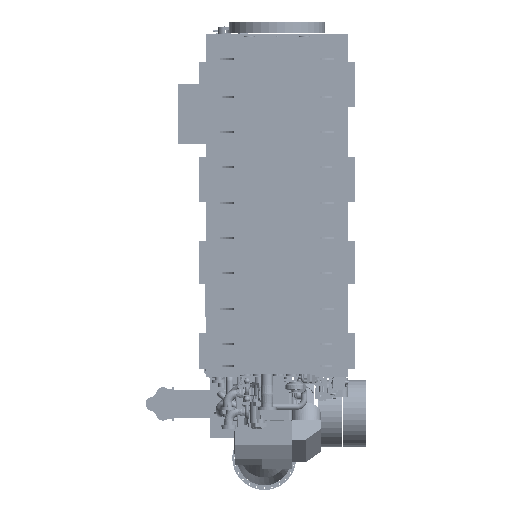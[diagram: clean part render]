
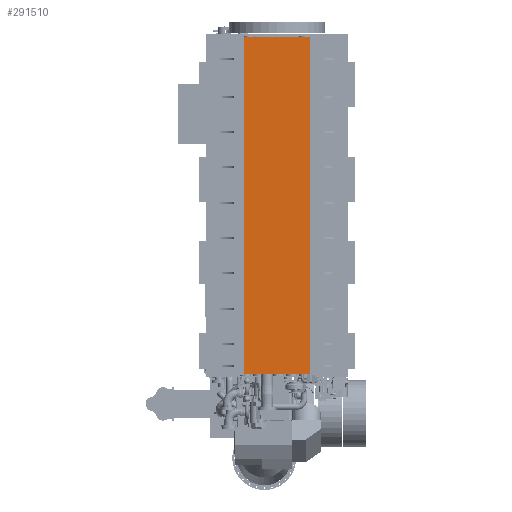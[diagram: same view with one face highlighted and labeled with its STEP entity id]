
A CAD part, front view. The second image highlights one B-rep face of the part: STEP entity #291510.
In plain terms, the highlighted planar face has unit normal (0, -1, 0).
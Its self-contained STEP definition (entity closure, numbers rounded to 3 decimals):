
#287918=DIRECTION('',(0.,0.,-1.));
#287919=VECTOR('',#287918,5050.);
#287920=CARTESIAN_POINT('',(490.,-1372.,622.));
#287921=LINE('',#287920,#287919);
#287922=DIRECTION('',(0.,0.,1.));
#287923=VECTOR('',#287922,5050.);
#287924=CARTESIAN_POINT('',(-490.,-1372.,-4428.));
#287925=LINE('',#287924,#287923);
#289010=DIRECTION('',(1.,0.,0.));
#289011=VECTOR('',#289010,980.);
#289012=CARTESIAN_POINT('',(-490.,-1372.,622.));
#289013=LINE('',#289012,#289011);
#289074=DIRECTION('',(1.,0.,0.));
#289075=VECTOR('',#289074,980.);
#289076=CARTESIAN_POINT('',(-490.,-1372.,-4428.));
#289077=LINE('',#289076,#289075);
#290624=CARTESIAN_POINT('',(-490.,-1372.,622.));
#290625=CARTESIAN_POINT('',(490.,-1372.,622.));
#290626=VERTEX_POINT('',#290624);
#290627=VERTEX_POINT('',#290625);
#290664=CARTESIAN_POINT('',(-490.,-1372.,-4428.));
#290665=CARTESIAN_POINT('',(490.,-1372.,-4428.));
#290666=VERTEX_POINT('',#290664);
#290667=VERTEX_POINT('',#290665);
#291495=CARTESIAN_POINT('',(-490.,-1372.,607.));
#291496=DIRECTION('',(0.,-1.,0.));
#291497=DIRECTION('',(1.,0.,0.));
#291498=AXIS2_PLACEMENT_3D('',#291495,#291496,#291497);
#291499=PLANE('',#291498);
#291501=ORIENTED_EDGE('',*,*,#291500,.T.);
#291503=ORIENTED_EDGE('',*,*,#291502,.F.);
#291505=ORIENTED_EDGE('',*,*,#291504,.T.);
#291507=ORIENTED_EDGE('',*,*,#291506,.T.);
#291508=EDGE_LOOP('',(#291501,#291503,#291505,#291507));
#291509=FACE_OUTER_BOUND('',#291508,.F.);
#291510=ADVANCED_FACE('',(#291509),#291499,.T.);
#291500=EDGE_CURVE('',#290627,#290667,#287921,.T.);
#291502=EDGE_CURVE('',#290666,#290667,#289077,.T.);
#291504=EDGE_CURVE('',#290666,#290626,#287925,.T.);
#291506=EDGE_CURVE('',#290626,#290627,#289013,.T.);
